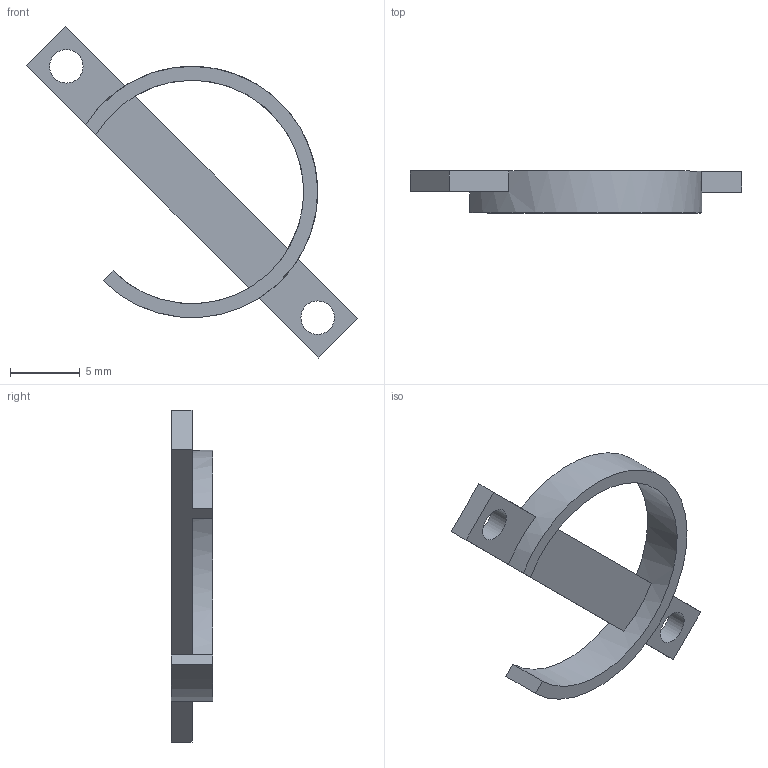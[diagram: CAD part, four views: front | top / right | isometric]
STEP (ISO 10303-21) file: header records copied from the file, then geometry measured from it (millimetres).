
FILE_DESCRIPTION(/* description */ (''),/* implementation_level */ '2;1');
FILE_NAME(/* name */ '',/* time_stamp */ '2025-10-06T16:28:12+08:00',/* author */ (''),/* organization */ (''),/* preprocessor_version */ 'ST-DEVELOPER v20.1',/* originating_system */ 'Autodesk Translation Framework v14.17.0.0',/* authorisation */ '');
FILE_SCHEMA (('AUTOMOTIVE_DESIGN { 1 0 10303 214 3 1 1 }'));
Length unit declared in the file: millimetre
Products named in the file (1): 蜂鸣片锁紧
Bounding box: 23.78 x 3 x 23.78 mm (x, y, z)
Volume: 276.5 mm3; surface area: 636.3 mm2
Topology: 1 solids, 1 shells, 17 faces, 48 edges, 32 vertices
Faces by surface type: plane 13, cylinder 4
Full cylindrical faces by diameter (mm): 2.4 x2
Entity records: 608 total; most frequent: DIRECTION 98, CARTESIAN_POINT 98, ORIENTED_EDGE 96, EDGE_CURVE 48, LINE 34, VECTOR 34, VERTEX_POINT 32, AXIS2_PLACEMENT_3D 32
